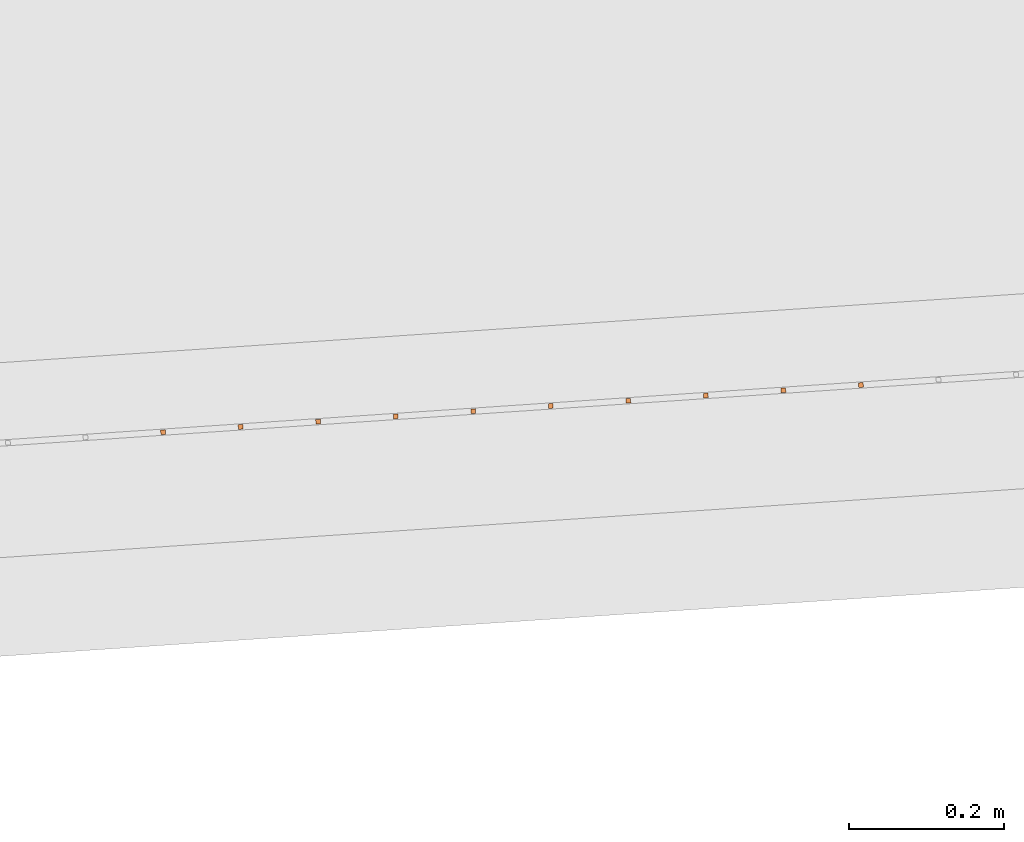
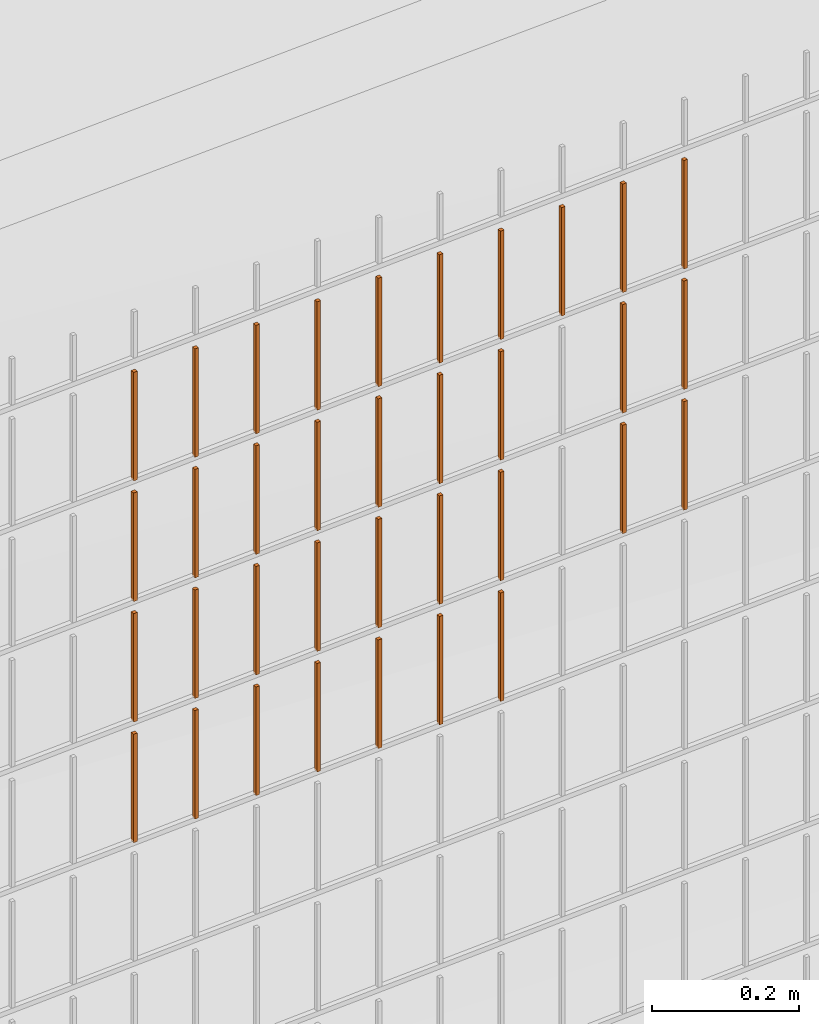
# One storey, part 376 of 1809: 35 proxies, 1 element without a shape of its own.
"""IFC2X3 building model written with IfcOpenShell, lengths in millimetres."""

import ifcopenshell
import ifcopenshell.guid

model = None  # the IFC model being written
_history = None  # IfcOwnerHistory: only IFC2X3 demands one
_inside = {}  # id of a spatial element -> (the spatial element, [elements in it])
_under = {}  # id of a project, library or spatial element -> (it, [spatial elements below it])
_declared = {}  # id of a project -> (the project, [libraries it declares])
_typed = {}  # id of a type object -> (the type object, [elements of that type])
_made_of = {}  # id of a material, layer set ... -> (it, [elements and type objects made of it])


def new_model(schema):
    """Start an empty IFC model of exactly this schema.

    Asked for "IFC4X3", IfcOpenShell would pick the latest addendum, in which some entities
    have other attributes; the version numbers below select the first issue.
    IFC2X3 requires an IfcOwnerHistory on every rooted entity: one is made here for all.
    """
    global model, _history
    if schema == "IFC4X3":
        model = ifcopenshell.file(schema_version=(4, 3, 0, 0))
    else:
        model = ifcopenshell.file(schema=schema)
    _inside.clear()
    _under.clear()
    _declared.clear()
    _typed.clear()
    _made_of.clear()
    _history = None
    if model.schema == "IFC2X3":
        org = make("IfcOrganization", Name="unknown")
        user = make(
            "IfcPersonAndOrganization",
            ThePerson=make("IfcPerson", FamilyName="unknown"),
            TheOrganization=org,
        )
        app = make(
            "IfcApplication",
            ApplicationDeveloper=org,
            Version="unknown",
            ApplicationFullName="unknown",
            ApplicationIdentifier="unknown",
        )
        _history = make(
            "IfcOwnerHistory",
            OwningUser=user,
            OwningApplication=app,
            ChangeAction="ADDED",
            CreationDate=0,
        )
    return model


def make(cls, **values):
    """One entity of the class cls with the attributes given. An attribute that is None is left unset."""
    return model.create_entity(
        cls, **{name: value for name, value in values.items() if value is not None}
    )


def entity(cls, *values):
    """Any entity or typed value of the class cls, its attributes in the order of the schema. None: left unset."""
    e = model.create_entity(cls)
    for i, value in enumerate(values):
        if value is not None:
            e[i] = value
    return e


def rooted(cls, **values):
    """An entity with a GlobalId (a new one), such as an element, a storey or a relation."""
    return make(cls, GlobalId=ifcopenshell.guid.new(), OwnerHistory=_history, **values)


def si_unit(unit_type, name, prefix=None):
    """IfcSIUnit, for example si_unit("LENGTHUNIT", "METRE", prefix="MILLI")."""
    return make("IfcSIUnit", UnitType=unit_type, Prefix=prefix, Name=name)


def converted_unit(unit_type, name, factor, base, dimensions=None, offset=None):
    """IfcConversionBasedUnit, such as the inch: factor (a typed value) times the base unit."""
    return make(
        "IfcConversionBasedUnit"
        if offset is None
        else "IfcConversionBasedUnitWithOffset",
        ConversionOffset=offset,
        Dimensions=None
        if dimensions is None
        else entity("IfcDimensionalExponents", *dimensions),
        UnitType=unit_type,
        Name=name,
        ConversionFactor=make(
            "IfcMeasureWithUnit", ValueComponent=factor, UnitComponent=base
        ),
    )


def derived_unit(unit_type, elements):
    """IfcDerivedUnit: a product of units, each with its exponent."""
    return make(
        "IfcDerivedUnit",
        Elements=[
            make("IfcDerivedUnitElement", Unit=unit, Exponent=power)
            for unit, power in elements
        ],
        UnitType=unit_type,
    )


def money_unit(currency):
    """IfcMonetaryUnit."""
    return make("IfcMonetaryUnit", Currency=currency)


def assignment(units):
    """IfcUnitAssignment: the units of a project."""
    return None if units is None else make("IfcUnitAssignment", Units=units)


def point(xyz):
    """IfcCartesianPoint."""
    return None if xyz is None else make("IfcCartesianPoint", Coordinates=xyz)


def direction(xyz):
    """IfcDirection."""
    return None if xyz is None else make("IfcDirection", DirectionRatios=xyz)


def frame(location, z_axis=None, x_axis=None):
    """IfcAxis2Placement3D, a coordinate frame: its origin and axes. An axis left out is left unset."""
    return make(
        "IfcAxis2Placement3D",
        Location=point(location),
        Axis=direction(z_axis),
        RefDirection=direction(x_axis),
    )


def origin_with_axes():
    """The frame at (0, 0, 0) with the z axis (0, 0, 1) and the x axis (1, 0, 0) written out."""
    return frame((0.0, 0.0, 0.0), z_axis=(0.0, 0.0, 1.0), x_axis=(1.0, 0.0, 0.0))


def place(relative_to, where):
    """IfcLocalPlacement: puts the frame where relative to a parent placement (None: the world)."""
    return make(
        "IfcLocalPlacement", PlacementRelTo=relative_to, RelativePlacement=where
    )


def context(
    kind, dimensions, precision=None, world=None, true_north=None, identifier=None
):
    """IfcGeometricRepresentationContext, for example the 3D "Model" context."""
    return make(
        "IfcGeometricRepresentationContext",
        ContextIdentifier=identifier,
        ContextType=kind,
        CoordinateSpaceDimension=dimensions,
        Precision=precision,
        WorldCoordinateSystem=world,
        TrueNorth=true_north,
    )


def subcontext(parent, identifier, kind, view, scale=None):
    """IfcGeometricRepresentationSubContext, for example "Body" below "Model"."""
    return make(
        "IfcGeometricRepresentationSubContext",
        ContextIdentifier=identifier,
        ContextType=kind,
        ParentContext=parent,
        TargetScale=scale,
        TargetView=view,
    )


def project(units=None, contexts=None):
    """IfcProject with its units and contexts."""
    return rooted(
        "IfcProject",
        Name="project",
        RepresentationContexts=contexts,
        UnitsInContext=assignment(units),
    )


def spatial(cls, under=None, at=None, **own):
    """A site, building, storey or space (cls), placed at a placement, below another one or the project."""
    s = rooted(cls, ObjectPlacement=at, **own)
    if under is not None:
        _under.setdefault(under.id(), (under, []))[1].append(s)
    return s


def faces_of(points, faces, orient=None, outer=None):
    """IfcFace entities. A face is a list of loops; a loop is a list of indices into points, from 0.

    orient and outer hold one flag for each loop. By default every Orientation is true, the
    first loop of a face is its IfcFaceOuterBound and the others are IfcFaceBound.
    """
    made = []
    for i, loops in enumerate(faces):
        bounds = []
        for j, loop in enumerate(loops):
            is_outer = j == 0 if outer is None else outer[i][j]
            bounds.append(
                make(
                    "IfcFaceOuterBound" if is_outer else "IfcFaceBound",
                    Bound=make("IfcPolyLoop", Polygon=[points[k] for k in loop]),
                    Orientation=True if orient is None else orient[i][j],
                )
            )
        made.append(make("IfcFace", Bounds=bounds))
    return made


def faceted_brep(points, faces, orient=None, outer=None, voids=None):
    """IfcFacetedBrep: a solid bounded by flat faces; with voids (closed shells), ...WithVoids."""
    shared = [point(p) for p in points]
    hull = make("IfcClosedShell", CfsFaces=faces_of(shared, faces, orient, outer))
    if voids is None:
        return make("IfcFacetedBrep", Outer=hull)
    return make(
        "IfcFacetedBrepWithVoids",
        Outer=hull,
        Voids=[
            make(cls, CfsFaces=faces_of(shared, fs, o, b)) for cls, fs, o, b in voids
        ],
    )


def shape(context_of_items, identifier, shape_type, items):
    """IfcShapeRepresentation: the items that make up one representation, for example the "Body"."""
    return make(
        "IfcShapeRepresentation",
        ContextOfItems=context_of_items,
        RepresentationIdentifier=identifier,
        RepresentationType=shape_type,
        Items=items,
    )


def source(mapping_origin, context_of_items, identifier, shape_type, items):
    """IfcRepresentationMap: a shape defined once, which mapped items show again and again."""
    return make(
        "IfcRepresentationMap",
        MappingOrigin=mapping_origin,
        MappedRepresentation=shape(context_of_items, identifier, shape_type, items),
    )


def transform(
    local_origin,
    x_axis=None,
    y_axis=None,
    z_axis=None,
    scale=None,
    scale2=None,
    scale3=None,
    uniform=True,
):
    """IfcCartesianTransformationOperator3D, or its non-uniform kind. x_axis, y_axis, z_axis: its Axis1, 2, 3."""
    if uniform:
        return make(
            "IfcCartesianTransformationOperator3D",
            Axis1=direction(x_axis),
            Axis2=direction(y_axis),
            LocalOrigin=point(local_origin),
            Scale=scale,
            Axis3=direction(z_axis),
        )
    return make(
        "IfcCartesianTransformationOperator3DnonUniform",
        Axis1=direction(x_axis),
        Axis2=direction(y_axis),
        LocalOrigin=point(local_origin),
        Scale=scale,
        Axis3=direction(z_axis),
        Scale2=scale2,
        Scale3=scale3,
    )


def mapped(mapping_source, mapping_target):
    """IfcMappedItem: shows the shape of a source again, moved by a transform."""
    return make(
        "IfcMappedItem", MappingSource=mapping_source, MappingTarget=mapping_target
    )


def material(Name=None, Category=None):
    """IfcMaterial."""
    return make("IfcMaterial", Name=Name, Category=Category)


def made_of(thing, what):
    """Note that an element or type object is made of a material, layer set ...; save() writes the relation."""
    if what is not None:
        _made_of.setdefault(what.id(), (what, []))[1].append(thing)
    return thing


def type_object(cls, material=None, **own):
    """A type object (cls), such as IfcWallType, which elements share."""
    return made_of(rooted(cls, **own), material)


def element(
    cls,
    number,
    at=None,
    inside=None,
    cuts=None,
    type_object=None,
    material=None,
    context=None,
    identifier="Body",
    shape_type=None,
    held_by="IfcProductDefinitionShape",
    body=None,
    shapes=None,
    **own,
):
    """One element of the class cls, such as IfcWall. Its Tag is "e" and its number.

    at: its placement. inside: the storey or other place that contains it. cuts: it is an
    opening in that element (IfcRelVoidsElement). A single representation is given by context,
    identifier, shape_type and body (its items); several are given by shapes. held_by: the class
    of the entity that holds the representations. save() writes the other relations.
    """
    e = rooted(cls, Tag="e%d" % number, ObjectPlacement=at, **own)
    if body is not None:
        shapes = [shape(context, identifier, shape_type, body)]
    if shapes is not None:
        e.Representation = make(held_by, Representations=shapes)
    if inside is not None:
        _inside.setdefault(inside.id(), (inside, []))[1].append(e)
    if cuts is not None:
        rooted(
            "IfcRelVoidsElement", RelatingBuildingElement=cuts, RelatedOpeningElement=e
        )
    if type_object is not None:
        _typed.setdefault(type_object.id(), (type_object, []))[1].append(e)
    return made_of(e, material)


def aggregate(whole, parts):
    """IfcRelAggregates: a whole, such as a stair, and the parts it consists of."""
    return rooted("IfcRelAggregates", RelatingObject=whole, RelatedObjects=parts)


def save(model, path):
    """Write the relations noted so far, then the file.

    IfcRelAggregates (storeys below a building ...), IfcRelContainedInSpatialStructure (elements
    in a storey), IfcRelDefinesByType, IfcRelAssociatesMaterial and IfcRelDeclares: one each for
    every whole, place, type object, material and project.
    """
    for whole, parts in _under.values():
        aggregate(whole, parts)
    for where, things in _inside.values():
        rooted(
            "IfcRelContainedInSpatialStructure",
            RelatedElements=things,
            RelatingStructure=where,
        )
    for kind, things in _typed.values():
        rooted("IfcRelDefinesByType", RelatedObjects=things, RelatingType=kind)
    for what, things in _made_of.values():
        rooted("IfcRelAssociatesMaterial", RelatedObjects=things, RelatingMaterial=what)
    for by, libraries in _declared.values():
        rooted("IfcRelDeclares", RelatingContext=by, RelatedDefinitions=libraries)
    model.write(path)


model = new_model("IFC2X3")

# Units and contexts
model_context = context("Model", 3, precision=0.01, world=origin_with_axes(), true_north=direction((0.0, 1.0)))
body_context = subcontext(model_context, "Body", "Model", "MODEL_VIEW")
ifc_project = project(units=[si_unit("LENGTHUNIT", "METRE", prefix="MILLI"), si_unit("AREAUNIT", "SQUARE_METRE"), si_unit("VOLUMEUNIT", "CUBIC_METRE"), converted_unit("PLANEANGLEUNIT", "DEGREE", entity("IfcPlaneAngleMeasure", 0.0174532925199), si_unit("PLANEANGLEUNIT", "RADIAN"), dimensions=[0, 0, 0, 0, 0, 0, 0]), si_unit("SOLIDANGLEUNIT", "STERADIAN"), money_unit("EUR"), converted_unit("TIMEUNIT", "Year", entity("IfcTimeMeasure", 31556926.0), si_unit("TIMEUNIT", "SECOND"), dimensions=[0, 0, 1, 0, 0, 0, 0]), si_unit("MASSUNIT", "GRAM", prefix="KILO"), si_unit("THERMODYNAMICTEMPERATUREUNIT", "DEGREE_CELSIUS"), si_unit("LUMINOUSINTENSITYUNIT", "LUMEN"), si_unit("ENERGYUNIT", "JOULE", prefix="MEGA"), derived_unit("THERMALCONDUCTANCEUNIT", [(si_unit("POWERUNIT", "WATT"), 1), (si_unit("LENGTHUNIT", "METRE"), -1), (si_unit("THERMODYNAMICTEMPERATUREUNIT", "KELVIN"), -1)]), derived_unit("SPECIFICHEATCAPACITYUNIT", [(si_unit("ENERGYUNIT", "JOULE"), 1), (si_unit("MASSUNIT", "GRAM", prefix="KILO"), -1), (si_unit("THERMODYNAMICTEMPERATUREUNIT", "KELVIN"), -1)]), derived_unit("MASSDENSITYUNIT", [(si_unit("MASSUNIT", "GRAM", prefix="KILO"), 1), (si_unit("VOLUMEUNIT", "CUBIC_METRE"), -1)])], contexts=[model_context])

# Site, building, storey
site_placement = place(None, origin_with_axes())
site = spatial("IfcSite", under=ifc_project, at=site_placement, Name="Politse- ja Piirivalveameti ning Päästeameti ühishoone", CompositionType="ELEMENT")
building_placement = place(site_placement, origin_with_axes())
building = spatial("IfcBuilding", under=site, at=building_placement, Name="Politse- ja Piirivalveameti ning Päästeameti ühishoone", CompositionType="ELEMENT")
storey_placement = place(building_placement, origin_with_axes())
storey = spatial("IfcBuildingStorey", under=building, at=storey_placement, Name="Esimene korrus", CompositionType="ELEMENT", Elevation=0.0)

# Proxies
building_element_proxy_type_1 = type_object("IfcBuildingElementProxyType", Name="Railing Type", PredefinedType="NOTDEFINED")
proxy_1_placement = place(storey_placement, frame((89252.001212, -29183.4766571, 203.661247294), z_axis=(0.0, 0.0, 1.0), x_axis=(1.0, 0.0, 0.0)))
proxy_1 = element("IfcBuildingElementProxy", 1, at=proxy_1_placement, inside=storey, type_object=building_element_proxy_type_1, Name="PIIRDEAED")
ifc_material = material(Name="ET-03_Raud")
building_element_proxy_type_2 = type_object("IfcBuildingElementProxyType", Name="IfcBuildingElementProxy", PredefinedType="NOTDEFINED")
shared_shape_1 = source(origin_with_axes(), body_context, "Body", "Brep", [
    faceted_brep([(3.0, 3.0, -0.000752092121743), (-3.0, 3.0, -0.000752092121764), (-3.0, 3.0, 179.99926046), (3.0, 3.0, 179.99926046), (3.0, -3.0, 0.000752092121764), (-3.0, -3.0, 0.000752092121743), (-3.0, -3.0, 180.000764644), (3.0, -3.0, 180.000764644)], [[[0, 1, 2, 3]], [[0, 4, 5, 1]], [[1, 5, 6, 2]], [[3, 2, 6, 7]], [[4, 0, 3, 7]], [[5, 4, 7, 6]]]),
])
proxy_2_placement = place(proxy_1_placement, frame((-18285.0227984, -18532.8590465, 1422.63993296), z_axis=(0.0, 0.0, 1.0), x_axis=(1.0, 0.0, 0.0)))
proxy_2 = element("IfcBuildingElementProxy", 2, at=proxy_2_placement, type_object=building_element_proxy_type_2, material=ifc_material, Name="BALUSTER - 001", context=body_context, shape_type="MappedRepresentation", body=[
    mapped(shared_shape_1, transform((0.0, 0.0, 0.0), x_axis=(-0.0673926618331, 0.997726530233, 0.0), y_axis=(-0.997726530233, -0.0673926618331, 0.0), z_axis=(0.0, 0.0, 1.0))),
])
shared_shape_2 = source(origin_with_axes(), body_context, "Body", "Brep", [
    faceted_brep([(3.0, 3.0, -0.000752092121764), (-3.0, 3.0, -0.000752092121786), (-3.0, 3.0, 179.99926046), (3.0, 3.0, 179.99926046), (3.0, -3.0, 0.000752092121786), (-3.0, -3.0, 0.000752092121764), (-3.0, -3.0, 180.000764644), (3.0, -3.0, 180.000764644)], [[[0, 1, 2, 3]], [[0, 4, 5, 1]], [[1, 5, 6, 2]], [[3, 2, 6, 7]], [[4, 0, 3, 7]], [[5, 4, 7, 6]]]),
])
proxy_3_placement = place(proxy_1_placement, frame((-19083.2040226, -18586.7731759, 1422.43937506), z_axis=(0.0, 0.0, 1.0), x_axis=(1.0, 0.0, 0.0)))
proxy_3 = element("IfcBuildingElementProxy", 3, at=proxy_3_placement, type_object=building_element_proxy_type_2, material=ifc_material, Name="BALUSTER - 001", context=body_context, shape_type="MappedRepresentation", body=[
    mapped(shared_shape_2, transform((0.0, 0.0, 0.0), x_axis=(-0.0673926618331, 0.997726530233, 0.0), y_axis=(-0.997726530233, -0.0673926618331, 0.0), z_axis=(0.0, 0.0, 1.0))),
])
shared_shape_3 = source(origin_with_axes(), body_context, "Body", "Brep", [
    faceted_brep([(3.0, 3.0, -0.000752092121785), (-3.0, 3.0, -0.000752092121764), (-3.0, 3.0, 179.99926046), (3.0, 3.0, 179.99926046), (3.0, -3.0, 0.000752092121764), (-3.0, -3.0, 0.000752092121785), (-3.0, -3.0, 180.000764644), (3.0, -3.0, 180.000764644)], [[[0, 1, 2, 3]], [[0, 4, 5, 1]], [[1, 5, 6, 2]], [[3, 2, 6, 7]], [[4, 0, 3, 7]], [[5, 4, 7, 6]]]),
])
proxy_4_placement = place(proxy_1_placement, frame((-18684.1134105, -18559.8161112, 1822.53965401), z_axis=(0.0, 0.0, 1.0), x_axis=(1.0, 0.0, 0.0)))
proxy_4 = element("IfcBuildingElementProxy", 4, at=proxy_4_placement, type_object=building_element_proxy_type_2, material=ifc_material, Name="BALUSTER - 001", context=body_context, shape_type="MappedRepresentation", body=[
    mapped(shared_shape_3, transform((0.0, 0.0, 0.0), x_axis=(-0.0673926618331, 0.997726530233, 0.0), y_axis=(-0.997726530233, -0.0673926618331, 0.0), z_axis=(0.0, 0.0, 1.0))),
])
shared_shape_4 = source(origin_with_axes(), body_context, "Body", "Brep", [
    faceted_brep([(3.0, 3.0, -0.000752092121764), (-3.0, 3.0, -0.000752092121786), (-3.0, 3.0, 179.99926046), (3.0, 3.0, 179.99926046), (3.0, -3.0, 0.000752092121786), (-3.0, -3.0, 0.000752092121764), (-3.0, -3.0, 180.000764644), (3.0, -3.0, 180.000764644)], [[[0, 1, 2, 3]], [[0, 4, 5, 1]], [[1, 5, 6, 2]], [[3, 2, 6, 7]], [[4, 0, 3, 7]], [[5, 4, 7, 6]]]),
])
proxy_5_placement = place(proxy_1_placement, frame((-19083.2040226, -18586.7731759, 1222.43937506), z_axis=(0.0, 0.0, 1.0), x_axis=(1.0, 0.0, 0.0)))
proxy_5 = element("IfcBuildingElementProxy", 5, at=proxy_5_placement, type_object=building_element_proxy_type_2, material=ifc_material, Name="BALUSTER - 001", context=body_context, shape_type="MappedRepresentation", body=[
    mapped(shared_shape_4, transform((0.0, 0.0, 0.0), x_axis=(-0.0673926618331, 0.997726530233, 0.0), y_axis=(-0.997726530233, -0.0673926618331, 0.0), z_axis=(0.0, 0.0, 1.0))),
])
shared_shape_5 = source(origin_with_axes(), body_context, "Body", "Brep", [
    faceted_brep([(3.0, 3.0, -0.000752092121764), (-3.0, 3.0, -0.000752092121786), (-3.0, 3.0, 179.99926046), (3.0, 3.0, 179.99926046), (3.0, -3.0, 0.000752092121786), (-3.0, -3.0, 0.000752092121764), (-3.0, -3.0, 180.000764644), (3.0, -3.0, 180.000764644)], [[[0, 1, 2, 3]], [[0, 4, 5, 1]], [[1, 5, 6, 2]], [[3, 2, 6, 7]], [[4, 0, 3, 7]], [[5, 4, 7, 6]]]),
])
proxy_6_placement = place(proxy_1_placement, frame((-18185.2501454, -18526.1197803, 1822.6650027), z_axis=(0.0, 0.0, 1.0), x_axis=(1.0, 0.0, 0.0)))
proxy_6 = element("IfcBuildingElementProxy", 6, at=proxy_6_placement, type_object=building_element_proxy_type_2, material=ifc_material, Name="BALUSTER - 001", context=body_context, shape_type="MappedRepresentation", body=[
    mapped(shared_shape_5, transform((0.0, 0.0, 0.0), x_axis=(-0.0673926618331, 0.997726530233, 0.0), y_axis=(-0.997726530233, -0.0673926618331, 0.0), z_axis=(0.0, 0.0, 1.0))),
])
shared_shape_6 = source(origin_with_axes(), body_context, "Body", "Brep", [
    faceted_brep([(3.0, 3.0, -0.000752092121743), (-3.0, 3.0, -0.000752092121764), (-3.0, 3.0, 179.99926046), (3.0, 3.0, 179.99926046), (3.0, -3.0, 0.000752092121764), (-3.0, -3.0, 0.000752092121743), (-3.0, -3.0, 180.000764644), (3.0, -3.0, 180.000764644)], [[[0, 1, 2, 3]], [[0, 4, 5, 1]], [[1, 5, 6, 2]], [[3, 2, 6, 7]], [[4, 0, 3, 7]], [[5, 4, 7, 6]]]),
])
proxy_7_placement = place(proxy_1_placement, frame((-18285.0227984, -18532.8590465, 1822.63993296), z_axis=(0.0, 0.0, 1.0), x_axis=(1.0, 0.0, 0.0)))
proxy_7 = element("IfcBuildingElementProxy", 7, at=proxy_7_placement, type_object=building_element_proxy_type_2, material=ifc_material, Name="BALUSTER - 001", context=body_context, shape_type="MappedRepresentation", body=[
    mapped(shared_shape_6, transform((0.0, 0.0, 0.0), x_axis=(-0.0673926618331, 0.997726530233, 0.0), y_axis=(-0.997726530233, -0.0673926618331, 0.0), z_axis=(0.0, 0.0, 1.0))),
])
shared_shape_7 = source(origin_with_axes(), body_context, "Body", "Brep", [
    faceted_brep([(3.0, 3.0, -0.000752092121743), (-3.0, 3.0, -0.000752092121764), (-3.0, 3.0, 179.99926046), (3.0, 3.0, 179.99926046), (3.0, -3.0, 0.000752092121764), (-3.0, -3.0, 0.000752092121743), (-3.0, -3.0, 180.000764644), (3.0, -3.0, 180.000764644)], [[[0, 1, 2, 3]], [[0, 4, 5, 1]], [[1, 5, 6, 2]], [[3, 2, 6, 7]], [[4, 0, 3, 7]], [[5, 4, 7, 6]]]),
])
proxy_8_placement = place(proxy_1_placement, frame((-18584.3407575, -18553.076845, 1822.56472375), z_axis=(0.0, 0.0, 1.0), x_axis=(1.0, 0.0, 0.0)))
proxy_8 = element("IfcBuildingElementProxy", 8, at=proxy_8_placement, type_object=building_element_proxy_type_2, material=ifc_material, Name="BALUSTER - 001", context=body_context, shape_type="MappedRepresentation", body=[
    mapped(shared_shape_7, transform((0.0, 0.0, 0.0), x_axis=(-0.0673926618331, 0.997726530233, 0.0), y_axis=(-0.997726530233, -0.0673926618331, 0.0), z_axis=(0.0, 0.0, 1.0))),
])
shared_shape_8 = source(origin_with_axes(), body_context, "Body", "Brep", [
    faceted_brep([(3.0, 3.0, -0.000752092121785), (-3.0, 3.0, -0.000752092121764), (-3.0, 3.0, 179.99926046), (3.0, 3.0, 179.99926046), (3.0, -3.0, 0.000752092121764), (-3.0, -3.0, 0.000752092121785), (-3.0, -3.0, 180.000764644), (3.0, -3.0, 180.000764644)], [[[0, 1, 2, 3]], [[0, 4, 5, 1]], [[1, 5, 6, 2]], [[3, 2, 6, 7]], [[4, 0, 3, 7]], [[5, 4, 7, 6]]]),
])
proxy_9_placement = place(proxy_1_placement, frame((-18684.1134105, -18559.8161112, 1222.53965401), z_axis=(0.0, 0.0, 1.0), x_axis=(1.0, 0.0, 0.0)))
proxy_9 = element("IfcBuildingElementProxy", 9, at=proxy_9_placement, type_object=building_element_proxy_type_2, material=ifc_material, Name="BALUSTER - 001", context=body_context, shape_type="MappedRepresentation", body=[
    mapped(shared_shape_8, transform((0.0, 0.0, 0.0), x_axis=(-0.0673926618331, 0.997726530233, 0.0), y_axis=(-0.997726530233, -0.0673926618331, 0.0), z_axis=(0.0, 0.0, 1.0))),
])
shared_shape_9 = source(origin_with_axes(), body_context, "Body", "Brep", [
    faceted_brep([(3.0, 3.0, -0.000752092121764), (-3.0, 3.0, -0.000752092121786), (-3.0, 3.0, 179.99926046), (3.0, 3.0, 179.99926046), (3.0, -3.0, 0.000752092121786), (-3.0, -3.0, 0.000752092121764), (-3.0, -3.0, 180.000764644), (3.0, -3.0, 180.000764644)], [[[0, 1, 2, 3]], [[0, 4, 5, 1]], [[1, 5, 6, 2]], [[3, 2, 6, 7]], [[4, 0, 3, 7]], [[5, 4, 7, 6]]]),
])
proxy_10_placement = place(proxy_1_placement, frame((-18883.6587166, -18573.2946436, 1822.48951454), z_axis=(0.0, 0.0, 1.0), x_axis=(1.0, 0.0, 0.0)))
proxy_10 = element("IfcBuildingElementProxy", 10, at=proxy_10_placement, type_object=building_element_proxy_type_2, material=ifc_material, Name="BALUSTER - 001", context=body_context, shape_type="MappedRepresentation", body=[
    mapped(shared_shape_9, transform((0.0, 0.0, 0.0), x_axis=(-0.0673926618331, 0.997726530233, 0.0), y_axis=(-0.997726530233, -0.0673926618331, 0.0), z_axis=(0.0, 0.0, 1.0))),
])
shared_shape_10 = source(origin_with_axes(), body_context, "Body", "Brep", [
    faceted_brep([(3.0, 3.0, -0.000752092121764), (-3.0, 3.0, -0.000752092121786), (-3.0, 3.0, 179.99926046), (3.0, 3.0, 179.99926046), (3.0, -3.0, 0.000752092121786), (-3.0, -3.0, 0.000752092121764), (-3.0, -3.0, 180.000764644), (3.0, -3.0, 180.000764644)], [[[0, 1, 2, 3]], [[0, 4, 5, 1]], [[1, 5, 6, 2]], [[3, 2, 6, 7]], [[4, 0, 3, 7]], [[5, 4, 7, 6]]]),
])
proxy_11_placement = place(proxy_1_placement, frame((-18883.6587166, -18573.2946436, 1222.48951454), z_axis=(0.0, 0.0, 1.0), x_axis=(1.0, 0.0, 0.0)))
proxy_11 = element("IfcBuildingElementProxy", 11, at=proxy_11_placement, type_object=building_element_proxy_type_2, material=ifc_material, Name="BALUSTER - 001", context=body_context, shape_type="MappedRepresentation", body=[
    mapped(shared_shape_10, transform((0.0, 0.0, 0.0), x_axis=(-0.0673926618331, 0.997726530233, 0.0), y_axis=(-0.997726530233, -0.0673926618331, 0.0), z_axis=(0.0, 0.0, 1.0))),
])
proxy_12_placement = place(proxy_1_placement, frame((-19083.2040226, -18586.7731759, 1822.43937506), z_axis=(0.0, 0.0, 1.0), x_axis=(1.0, 0.0, 0.0)))
proxy_12 = element("IfcBuildingElementProxy", 12, at=proxy_12_placement, type_object=building_element_proxy_type_2, material=ifc_material, Name="BALUSTER - 001", context=body_context, shape_type="MappedRepresentation", body=[
    mapped(shared_shape_10, transform((0.0, 0.0, 0.0), x_axis=(-0.0673926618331, 0.997726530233, 0.0), y_axis=(-0.997726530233, -0.0673926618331, 0.0), z_axis=(0.0, 0.0, 1.0))),
])
shared_shape_11 = source(origin_with_axes(), body_context, "Body", "Brep", [
    faceted_brep([(3.0, 3.0, -0.000752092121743), (-3.0, 3.0, -0.000752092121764), (-3.0, 3.0, 179.99926046), (3.0, 3.0, 179.99926046), (3.0, -3.0, 0.000752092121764), (-3.0, -3.0, 0.000752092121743), (-3.0, -3.0, 180.000764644), (3.0, -3.0, 180.000764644)], [[[0, 1, 2, 3]], [[0, 4, 5, 1]], [[1, 5, 6, 2]], [[3, 2, 6, 7]], [[4, 0, 3, 7]], [[5, 4, 7, 6]]]),
])
proxy_13_placement = place(proxy_1_placement, frame((-18285.0227984, -18532.8590465, 1622.63993296), z_axis=(0.0, 0.0, 1.0), x_axis=(1.0, 0.0, 0.0)))
proxy_13 = element("IfcBuildingElementProxy", 13, at=proxy_13_placement, type_object=building_element_proxy_type_2, material=ifc_material, Name="BALUSTER - 001", context=body_context, shape_type="MappedRepresentation", body=[
    mapped(shared_shape_11, transform((0.0, 0.0, 0.0), x_axis=(-0.0673926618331, 0.997726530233, 0.0), y_axis=(-0.997726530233, -0.0673926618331, 0.0), z_axis=(0.0, 0.0, 1.0))),
])
shared_shape_12 = source(origin_with_axes(), body_context, "Body", "Brep", [
    faceted_brep([(3.0, 3.0, -0.000752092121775), (-3.0, 3.0, -0.000752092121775), (-3.0, 3.0, 179.99926046), (3.0, 3.0, 179.99926046), (3.0, -3.0, 0.000752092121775), (-3.0, -3.0, 0.000752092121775), (-3.0, -3.0, 180.000764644), (3.0, -3.0, 180.000764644)], [[[0, 1, 2, 3]], [[0, 4, 5, 1]], [[1, 5, 6, 2]], [[3, 2, 6, 7]], [[4, 0, 3, 7]], [[5, 4, 7, 6]]]),
])
proxy_14_placement = place(proxy_1_placement, frame((-18983.4313696, -18580.0339097, 1222.4644448), z_axis=(0.0, 0.0, 1.0), x_axis=(1.0, 0.0, 0.0)))
proxy_14 = element("IfcBuildingElementProxy", 14, at=proxy_14_placement, type_object=building_element_proxy_type_2, material=ifc_material, Name="BALUSTER - 001", context=body_context, shape_type="MappedRepresentation", body=[
    mapped(shared_shape_12, transform((0.0, 0.0, 0.0), x_axis=(-0.0673926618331, 0.997726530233, 0.0), y_axis=(-0.997726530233, -0.0673926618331, 0.0), z_axis=(0.0, 0.0, 1.0))),
])
shared_shape_13 = source(origin_with_axes(), body_context, "Body", "Brep", [
    faceted_brep([(3.0, 3.0, -0.000752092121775), (-3.0, 3.0, -0.000752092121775), (-3.0, 3.0, 179.99926046), (3.0, 3.0, 179.99926046), (3.0, -3.0, 0.000752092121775), (-3.0, -3.0, 0.000752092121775), (-3.0, -3.0, 180.000764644), (3.0, -3.0, 180.000764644)], [[[0, 1, 2, 3]], [[0, 4, 5, 1]], [[1, 5, 6, 2]], [[3, 2, 6, 7]], [[4, 0, 3, 7]], [[5, 4, 7, 6]]]),
])
proxy_15_placement = place(proxy_1_placement, frame((-18983.4313696, -18580.0339097, 1422.4644448), z_axis=(0.0, 0.0, 1.0), x_axis=(1.0, 0.0, 0.0)))
proxy_15 = element("IfcBuildingElementProxy", 15, at=proxy_15_placement, type_object=building_element_proxy_type_2, material=ifc_material, Name="BALUSTER - 001", context=body_context, shape_type="MappedRepresentation", body=[
    mapped(shared_shape_13, transform((0.0, 0.0, 0.0), x_axis=(-0.0673926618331, 0.997726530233, 0.0), y_axis=(-0.997726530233, -0.0673926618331, 0.0), z_axis=(0.0, 0.0, 1.0))),
])
shared_shape_14 = source(origin_with_axes(), body_context, "Body", "Brep", [
    faceted_brep([(3.0, 3.0, -0.000752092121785), (-3.0, 3.0, -0.000752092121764), (-3.0, 3.0, 179.99926046), (3.0, 3.0, 179.99926046), (3.0, -3.0, 0.000752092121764), (-3.0, -3.0, 0.000752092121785), (-3.0, -3.0, 180.000764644), (3.0, -3.0, 180.000764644)], [[[0, 1, 2, 3]], [[0, 4, 5, 1]], [[1, 5, 6, 2]], [[3, 2, 6, 7]], [[4, 0, 3, 7]], [[5, 4, 7, 6]]]),
])
proxy_16_placement = place(proxy_1_placement, frame((-18684.1134105, -18559.8161112, 1422.53965401), z_axis=(0.0, 0.0, 1.0), x_axis=(1.0, 0.0, 0.0)))
proxy_16 = element("IfcBuildingElementProxy", 16, at=proxy_16_placement, type_object=building_element_proxy_type_2, material=ifc_material, Name="BALUSTER - 001", context=body_context, shape_type="MappedRepresentation", body=[
    mapped(shared_shape_14, transform((0.0, 0.0, 0.0), x_axis=(-0.0673926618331, 0.997726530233, 0.0), y_axis=(-0.997726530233, -0.0673926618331, 0.0), z_axis=(0.0, 0.0, 1.0))),
])
shared_shape_15 = source(origin_with_axes(), body_context, "Body", "Brep", [
    faceted_brep([(3.0, 3.0, -0.000752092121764), (-3.0, 3.0, -0.000752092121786), (-3.0, 3.0, 179.99926046), (3.0, 3.0, 179.99926046), (3.0, -3.0, 0.000752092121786), (-3.0, -3.0, 0.000752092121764), (-3.0, -3.0, 180.000764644), (3.0, -3.0, 180.000764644)], [[[0, 1, 2, 3]], [[0, 4, 5, 1]], [[1, 5, 6, 2]], [[3, 2, 6, 7]], [[4, 0, 3, 7]], [[5, 4, 7, 6]]]),
])
proxy_17_placement = place(proxy_1_placement, frame((-18883.6587166, -18573.2946436, 1422.48951454), z_axis=(0.0, 0.0, 1.0), x_axis=(1.0, 0.0, 0.0)))
proxy_17 = element("IfcBuildingElementProxy", 17, at=proxy_17_placement, type_object=building_element_proxy_type_2, material=ifc_material, Name="BALUSTER - 001", context=body_context, shape_type="MappedRepresentation", body=[
    mapped(shared_shape_15, transform((0.0, 0.0, 0.0), x_axis=(-0.0673926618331, 0.997726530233, 0.0), y_axis=(-0.997726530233, -0.0673926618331, 0.0), z_axis=(0.0, 0.0, 1.0))),
])
proxy_18_placement = place(proxy_1_placement, frame((-18883.6587166, -18573.2946436, 1622.48951454), z_axis=(0.0, 0.0, 1.0), x_axis=(1.0, 0.0, 0.0)))
proxy_18 = element("IfcBuildingElementProxy", 18, at=proxy_18_placement, type_object=building_element_proxy_type_2, material=ifc_material, Name="BALUSTER - 001", context=body_context, shape_type="MappedRepresentation", body=[
    mapped(shared_shape_15, transform((0.0, 0.0, 0.0), x_axis=(-0.0673926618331, 0.997726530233, 0.0), y_axis=(-0.997726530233, -0.0673926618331, 0.0), z_axis=(0.0, 0.0, 1.0))),
])
shared_shape_16 = source(origin_with_axes(), body_context, "Body", "Brep", [
    faceted_brep([(3.0, 3.0, -0.000752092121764), (-3.0, 3.0, -0.000752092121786), (-3.0, 3.0, 179.99926046), (3.0, 3.0, 179.99926046), (3.0, -3.0, 0.000752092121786), (-3.0, -3.0, 0.000752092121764), (-3.0, -3.0, 180.000764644), (3.0, -3.0, 180.000764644)], [[[0, 1, 2, 3]], [[0, 4, 5, 1]], [[1, 5, 6, 2]], [[3, 2, 6, 7]], [[4, 0, 3, 7]], [[5, 4, 7, 6]]]),
])
proxy_19_placement = place(proxy_1_placement, frame((-19083.2040226, -18586.7731759, 1622.43937506), z_axis=(0.0, 0.0, 1.0), x_axis=(1.0, 0.0, 0.0)))
proxy_19 = element("IfcBuildingElementProxy", 19, at=proxy_19_placement, type_object=building_element_proxy_type_2, material=ifc_material, Name="BALUSTER - 001", context=body_context, shape_type="MappedRepresentation", body=[
    mapped(shared_shape_16, transform((0.0, 0.0, 0.0), x_axis=(-0.0673926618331, 0.997726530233, 0.0), y_axis=(-0.997726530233, -0.0673926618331, 0.0), z_axis=(0.0, 0.0, 1.0))),
])
shared_shape_17 = source(origin_with_axes(), body_context, "Body", "Brep", [
    faceted_brep([(3.0, 3.0, -0.000752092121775), (-3.0, 3.0, -0.000752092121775), (-3.0, 3.0, 179.99926046), (3.0, 3.0, 179.99926046), (3.0, -3.0, 0.000752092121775), (-3.0, -3.0, 0.000752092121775), (-3.0, -3.0, 180.000764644), (3.0, -3.0, 180.000764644)], [[[0, 1, 2, 3]], [[0, 4, 5, 1]], [[1, 5, 6, 2]], [[3, 2, 6, 7]], [[4, 0, 3, 7]], [[5, 4, 7, 6]]]),
])
proxy_20_placement = place(proxy_1_placement, frame((-18783.8860636, -18566.5553774, 1822.51458428), z_axis=(0.0, 0.0, 1.0), x_axis=(1.0, 0.0, 0.0)))
proxy_20 = element("IfcBuildingElementProxy", 20, at=proxy_20_placement, type_object=building_element_proxy_type_2, material=ifc_material, Name="BALUSTER - 001", context=body_context, shape_type="MappedRepresentation", body=[
    mapped(shared_shape_17, transform((0.0, 0.0, 0.0), x_axis=(-0.0673926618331, 0.997726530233, 0.0), y_axis=(-0.997726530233, -0.0673926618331, 0.0), z_axis=(0.0, 0.0, 1.0))),
])
proxy_21_placement = place(proxy_1_placement, frame((-18983.4313696, -18580.0339097, 1822.4644448), z_axis=(0.0, 0.0, 1.0), x_axis=(1.0, 0.0, 0.0)))
proxy_21 = element("IfcBuildingElementProxy", 21, at=proxy_21_placement, type_object=building_element_proxy_type_2, material=ifc_material, Name="BALUSTER - 001", context=body_context, shape_type="MappedRepresentation", body=[
    mapped(shared_shape_17, transform((0.0, 0.0, 0.0), x_axis=(-0.0673926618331, 0.997726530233, 0.0), y_axis=(-0.997726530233, -0.0673926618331, 0.0), z_axis=(0.0, 0.0, 1.0))),
])
shared_shape_18 = source(origin_with_axes(), body_context, "Body", "Brep", [
    faceted_brep([(3.0, 3.0, -0.000752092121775), (-3.0, 3.0, -0.000752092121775), (-3.0, 3.0, 179.99926046), (3.0, 3.0, 179.99926046), (3.0, -3.0, 0.000752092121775), (-3.0, -3.0, 0.000752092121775), (-3.0, -3.0, 180.000764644), (3.0, -3.0, 180.000764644)], [[[0, 1, 2, 3]], [[0, 4, 5, 1]], [[1, 5, 6, 2]], [[3, 2, 6, 7]], [[4, 0, 3, 7]], [[5, 4, 7, 6]]]),
])
proxy_22_placement = place(proxy_1_placement, frame((-18783.8860636, -18566.5553774, 1222.51458428), z_axis=(0.0, 0.0, 1.0), x_axis=(1.0, 0.0, 0.0)))
proxy_22 = element("IfcBuildingElementProxy", 22, at=proxy_22_placement, type_object=building_element_proxy_type_2, material=ifc_material, Name="BALUSTER - 001", context=body_context, shape_type="MappedRepresentation", body=[
    mapped(shared_shape_18, transform((0.0, 0.0, 0.0), x_axis=(-0.0673926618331, 0.997726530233, 0.0), y_axis=(-0.997726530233, -0.0673926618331, 0.0), z_axis=(0.0, 0.0, 1.0))),
])
proxy_23_placement = place(proxy_1_placement, frame((-18983.4313696, -18580.0339097, 1622.4644448), z_axis=(0.0, 0.0, 1.0), x_axis=(1.0, 0.0, 0.0)))
proxy_23 = element("IfcBuildingElementProxy", 23, at=proxy_23_placement, type_object=building_element_proxy_type_2, material=ifc_material, Name="BALUSTER - 001", context=body_context, shape_type="MappedRepresentation", body=[
    mapped(shared_shape_18, transform((0.0, 0.0, 0.0), x_axis=(-0.0673926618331, 0.997726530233, 0.0), y_axis=(-0.997726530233, -0.0673926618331, 0.0), z_axis=(0.0, 0.0, 1.0))),
])
shared_shape_19 = source(origin_with_axes(), body_context, "Body", "Brep", [
    faceted_brep([(3.0, 3.0, -0.000752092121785), (-3.0, 3.0, -0.000752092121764), (-3.0, 3.0, 179.99926046), (3.0, 3.0, 179.99926046), (3.0, -3.0, 0.000752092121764), (-3.0, -3.0, 0.000752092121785), (-3.0, -3.0, 180.000764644), (3.0, -3.0, 180.000764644)], [[[0, 1, 2, 3]], [[0, 4, 5, 1]], [[1, 5, 6, 2]], [[3, 2, 6, 7]], [[4, 0, 3, 7]], [[5, 4, 7, 6]]]),
])
proxy_24_placement = place(proxy_1_placement, frame((-18684.1134105, -18559.8161112, 1622.53965401), z_axis=(0.0, 0.0, 1.0), x_axis=(1.0, 0.0, 0.0)))
proxy_24 = element("IfcBuildingElementProxy", 24, at=proxy_24_placement, type_object=building_element_proxy_type_2, material=ifc_material, Name="BALUSTER - 001", context=body_context, shape_type="MappedRepresentation", body=[
    mapped(shared_shape_19, transform((0.0, 0.0, 0.0), x_axis=(-0.0673926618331, 0.997726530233, 0.0), y_axis=(-0.997726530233, -0.0673926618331, 0.0), z_axis=(0.0, 0.0, 1.0))),
])
shared_shape_20 = source(origin_with_axes(), body_context, "Body", "Brep", [
    faceted_brep([(3.0, 3.0, -0.000752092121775), (-3.0, 3.0, -0.000752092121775), (-3.0, 3.0, 179.99926046), (3.0, 3.0, 179.99926046), (3.0, -3.0, 0.000752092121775), (-3.0, -3.0, 0.000752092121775), (-3.0, -3.0, 180.000764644), (3.0, -3.0, 180.000764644)], [[[0, 1, 2, 3]], [[0, 4, 5, 1]], [[1, 5, 6, 2]], [[3, 2, 6, 7]], [[4, 0, 3, 7]], [[5, 4, 7, 6]]]),
])
proxy_25_placement = place(proxy_1_placement, frame((-18783.8860636, -18566.5553774, 1422.51458428), z_axis=(0.0, 0.0, 1.0), x_axis=(1.0, 0.0, 0.0)))
proxy_25 = element("IfcBuildingElementProxy", 25, at=proxy_25_placement, type_object=building_element_proxy_type_2, material=ifc_material, Name="BALUSTER - 001", context=body_context, shape_type="MappedRepresentation", body=[
    mapped(shared_shape_20, transform((0.0, 0.0, 0.0), x_axis=(-0.0673926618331, 0.997726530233, 0.0), y_axis=(-0.997726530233, -0.0673926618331, 0.0), z_axis=(0.0, 0.0, 1.0))),
])
proxy_26_placement = place(proxy_1_placement, frame((-18783.8860636, -18566.5553774, 1622.51458428), z_axis=(0.0, 0.0, 1.0), x_axis=(1.0, 0.0, 0.0)))
proxy_26 = element("IfcBuildingElementProxy", 26, at=proxy_26_placement, type_object=building_element_proxy_type_2, material=ifc_material, Name="BALUSTER - 001", context=body_context, shape_type="MappedRepresentation", body=[
    mapped(shared_shape_20, transform((0.0, 0.0, 0.0), x_axis=(-0.0673926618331, 0.997726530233, 0.0), y_axis=(-0.997726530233, -0.0673926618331, 0.0), z_axis=(0.0, 0.0, 1.0))),
])
shared_shape_21 = source(origin_with_axes(), body_context, "Body", "Brep", [
    faceted_brep([(3.0, 3.0, -0.000752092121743), (-3.0, 3.0, -0.000752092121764), (-3.0, 3.0, 179.99926046), (3.0, 3.0, 179.99926046), (3.0, -3.0, 0.000752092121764), (-3.0, -3.0, 0.000752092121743), (-3.0, -3.0, 180.000764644), (3.0, -3.0, 180.000764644)], [[[0, 1, 2, 3]], [[0, 4, 5, 1]], [[1, 5, 6, 2]], [[3, 2, 6, 7]], [[4, 0, 3, 7]], [[5, 4, 7, 6]]]),
])
proxy_27_placement = place(proxy_1_placement, frame((-18584.3407575, -18553.076845, 1222.56472375), z_axis=(0.0, 0.0, 1.0), x_axis=(1.0, 0.0, 0.0)))
proxy_27 = element("IfcBuildingElementProxy", 27, at=proxy_27_placement, type_object=building_element_proxy_type_2, material=ifc_material, Name="BALUSTER - 001", context=body_context, shape_type="MappedRepresentation", body=[
    mapped(shared_shape_21, transform((0.0, 0.0, 0.0), x_axis=(-0.0673926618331, 0.997726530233, 0.0), y_axis=(-0.997726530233, -0.0673926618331, 0.0), z_axis=(0.0, 0.0, 1.0))),
])
shared_shape_22 = source(origin_with_axes(), body_context, "Body", "Brep", [
    faceted_brep([(3.0, 3.0, -0.000752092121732), (-3.0, 3.0, -0.000752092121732), (-3.0, 3.0, 179.99926046), (3.0, 3.0, 179.99926046), (3.0, -3.0, 0.000752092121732), (-3.0, -3.0, 0.000752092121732), (-3.0, -3.0, 180.000764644), (3.0, -3.0, 180.000764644)], [[[0, 1, 2, 3]], [[0, 4, 5, 1]], [[1, 5, 6, 2]], [[3, 2, 6, 7]], [[4, 0, 3, 7]], [[5, 4, 7, 6]]]),
])
proxy_28_placement = place(proxy_1_placement, frame((-18484.5681045, -18546.3375788, 1822.58979349), z_axis=(0.0, 0.0, 1.0), x_axis=(1.0, 0.0, 0.0)))
proxy_28 = element("IfcBuildingElementProxy", 28, at=proxy_28_placement, type_object=building_element_proxy_type_2, material=ifc_material, Name="BALUSTER - 001", context=body_context, shape_type="MappedRepresentation", body=[
    mapped(shared_shape_22, transform((0.0, 0.0, 0.0), x_axis=(-0.0673926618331, 0.997726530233, 0.0), y_axis=(-0.997726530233, -0.0673926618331, 0.0), z_axis=(0.0, 0.0, 1.0))),
])
shared_shape_23 = source(origin_with_axes(), body_context, "Body", "Brep", [
    faceted_brep([(3.0, 3.0, -0.000752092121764), (-3.0, 3.0, -0.000752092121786), (-3.0, 3.0, 179.99926046), (3.0, 3.0, 179.99926046), (3.0, -3.0, 0.000752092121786), (-3.0, -3.0, 0.000752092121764), (-3.0, -3.0, 180.000764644), (3.0, -3.0, 180.000764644)], [[[0, 1, 2, 3]], [[0, 4, 5, 1]], [[1, 5, 6, 2]], [[3, 2, 6, 7]], [[4, 0, 3, 7]], [[5, 4, 7, 6]]]),
])
proxy_29_placement = place(proxy_1_placement, frame((-18185.2501454, -18526.1197803, 1422.6650027), z_axis=(0.0, 0.0, 1.0), x_axis=(1.0, 0.0, 0.0)))
proxy_29 = element("IfcBuildingElementProxy", 29, at=proxy_29_placement, type_object=building_element_proxy_type_2, material=ifc_material, Name="BALUSTER - 001", context=body_context, shape_type="MappedRepresentation", body=[
    mapped(shared_shape_23, transform((0.0, 0.0, 0.0), x_axis=(-0.0673926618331, 0.997726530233, 0.0), y_axis=(-0.997726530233, -0.0673926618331, 0.0), z_axis=(0.0, 0.0, 1.0))),
])
proxy_30_placement = place(proxy_1_placement, frame((-18185.2501454, -18526.1197803, 1622.6650027), z_axis=(0.0, 0.0, 1.0), x_axis=(1.0, 0.0, 0.0)))
proxy_30 = element("IfcBuildingElementProxy", 30, at=proxy_30_placement, type_object=building_element_proxy_type_2, material=ifc_material, Name="BALUSTER - 001", context=body_context, shape_type="MappedRepresentation", body=[
    mapped(shared_shape_23, transform((0.0, 0.0, 0.0), x_axis=(-0.0673926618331, 0.997726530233, 0.0), y_axis=(-0.997726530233, -0.0673926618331, 0.0), z_axis=(0.0, 0.0, 1.0))),
])
shared_shape_24 = source(origin_with_axes(), body_context, "Body", "Brep", [
    faceted_brep([(3.0, 3.0, -0.000752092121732), (-3.0, 3.0, -0.000752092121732), (-3.0, 3.0, 179.99926046), (3.0, 3.0, 179.99926046), (3.0, -3.0, 0.000752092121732), (-3.0, -3.0, 0.000752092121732), (-3.0, -3.0, 180.000764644), (3.0, -3.0, 180.000764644)], [[[0, 1, 2, 3]], [[0, 4, 5, 1]], [[1, 5, 6, 2]], [[3, 2, 6, 7]], [[4, 0, 3, 7]], [[5, 4, 7, 6]]]),
])
proxy_31_placement = place(proxy_1_placement, frame((-18484.5681045, -18546.3375788, 1222.58979349), z_axis=(0.0, 0.0, 1.0), x_axis=(1.0, 0.0, 0.0)))
proxy_31 = element("IfcBuildingElementProxy", 31, at=proxy_31_placement, type_object=building_element_proxy_type_2, material=ifc_material, Name="BALUSTER - 001", context=body_context, shape_type="MappedRepresentation", body=[
    mapped(shared_shape_24, transform((0.0, 0.0, 0.0), x_axis=(-0.0673926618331, 0.997726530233, 0.0), y_axis=(-0.997726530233, -0.0673926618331, 0.0), z_axis=(0.0, 0.0, 1.0))),
])
proxy_32_placement = place(proxy_1_placement, frame((-18384.7954515, -18539.5983126, 1822.61486323), z_axis=(0.0, 0.0, 1.0), x_axis=(1.0, 0.0, 0.0)))
proxy_32 = element("IfcBuildingElementProxy", 32, at=proxy_32_placement, type_object=building_element_proxy_type_2, material=ifc_material, Name="BALUSTER - 001", context=body_context, shape_type="MappedRepresentation", body=[
    mapped(shared_shape_24, transform((0.0, 0.0, 0.0), x_axis=(-0.0673926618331, 0.997726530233, 0.0), y_axis=(-0.997726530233, -0.0673926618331, 0.0), z_axis=(0.0, 0.0, 1.0))),
])
shared_shape_25 = source(origin_with_axes(), body_context, "Body", "Brep", [
    faceted_brep([(3.0, 3.0, -0.000752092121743), (-3.0, 3.0, -0.000752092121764), (-3.0, 3.0, 179.99926046), (3.0, 3.0, 179.99926046), (3.0, -3.0, 0.000752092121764), (-3.0, -3.0, 0.000752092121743), (-3.0, -3.0, 180.000764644), (3.0, -3.0, 180.000764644)], [[[0, 1, 2, 3]], [[0, 4, 5, 1]], [[1, 5, 6, 2]], [[3, 2, 6, 7]], [[4, 0, 3, 7]], [[5, 4, 7, 6]]]),
])
proxy_33_placement = place(proxy_1_placement, frame((-18584.3407575, -18553.076845, 1422.56472375), z_axis=(0.0, 0.0, 1.0), x_axis=(1.0, 0.0, 0.0)))
proxy_33 = element("IfcBuildingElementProxy", 33, at=proxy_33_placement, type_object=building_element_proxy_type_2, material=ifc_material, Name="BALUSTER - 001", context=body_context, shape_type="MappedRepresentation", body=[
    mapped(shared_shape_25, transform((0.0, 0.0, 0.0), x_axis=(-0.0673926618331, 0.997726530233, 0.0), y_axis=(-0.997726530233, -0.0673926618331, 0.0), z_axis=(0.0, 0.0, 1.0))),
])
proxy_34_placement = place(proxy_1_placement, frame((-18584.3407575, -18553.076845, 1622.56472375), z_axis=(0.0, 0.0, 1.0), x_axis=(1.0, 0.0, 0.0)))
proxy_34 = element("IfcBuildingElementProxy", 34, at=proxy_34_placement, type_object=building_element_proxy_type_2, material=ifc_material, Name="BALUSTER - 001", context=body_context, shape_type="MappedRepresentation", body=[
    mapped(shared_shape_25, transform((0.0, 0.0, 0.0), x_axis=(-0.0673926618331, 0.997726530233, 0.0), y_axis=(-0.997726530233, -0.0673926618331, 0.0), z_axis=(0.0, 0.0, 1.0))),
])
shared_shape_26 = source(origin_with_axes(), body_context, "Body", "Brep", [
    faceted_brep([(3.0, 3.0, -0.000752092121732), (-3.0, 3.0, -0.000752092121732), (-3.0, 3.0, 179.99926046), (3.0, 3.0, 179.99926046), (3.0, -3.0, 0.000752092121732), (-3.0, -3.0, 0.000752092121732), (-3.0, -3.0, 180.000764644), (3.0, -3.0, 180.000764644)], [[[0, 1, 2, 3]], [[0, 4, 5, 1]], [[1, 5, 6, 2]], [[3, 2, 6, 7]], [[4, 0, 3, 7]], [[5, 4, 7, 6]]]),
])
proxy_35_placement = place(proxy_1_placement, frame((-18484.5681045, -18546.3375788, 1422.58979349), z_axis=(0.0, 0.0, 1.0), x_axis=(1.0, 0.0, 0.0)))
proxy_35 = element("IfcBuildingElementProxy", 35, at=proxy_35_placement, type_object=building_element_proxy_type_2, material=ifc_material, Name="BALUSTER - 001", context=body_context, shape_type="MappedRepresentation", body=[
    mapped(shared_shape_26, transform((0.0, 0.0, 0.0), x_axis=(-0.0673926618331, 0.997726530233, 0.0), y_axis=(-0.997726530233, -0.0673926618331, 0.0), z_axis=(0.0, 0.0, 1.0))),
])
proxy_36_placement = place(proxy_1_placement, frame((-18484.5681045, -18546.3375788, 1622.58979349), z_axis=(0.0, 0.0, 1.0), x_axis=(1.0, 0.0, 0.0)))
proxy_36 = element("IfcBuildingElementProxy", 36, at=proxy_36_placement, type_object=building_element_proxy_type_2, material=ifc_material, Name="BALUSTER - 001", context=body_context, shape_type="MappedRepresentation", body=[
    mapped(shared_shape_26, transform((0.0, 0.0, 0.0), x_axis=(-0.0673926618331, 0.997726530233, 0.0), y_axis=(-0.997726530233, -0.0673926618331, 0.0), z_axis=(0.0, 0.0, 1.0))),
])
aggregate(proxy_1, [proxy_31, proxy_27, proxy_9, proxy_22, proxy_11, proxy_14, proxy_5, proxy_29, proxy_2, proxy_35, proxy_33, proxy_16, proxy_25, proxy_17, proxy_15, proxy_3, proxy_30, proxy_13, proxy_36, proxy_34, proxy_24, proxy_26, proxy_18, proxy_23, proxy_19, proxy_6, proxy_7, proxy_32, proxy_28, proxy_8, proxy_4, proxy_20, proxy_10, proxy_21, proxy_12])

save(model, "model.ifc")
